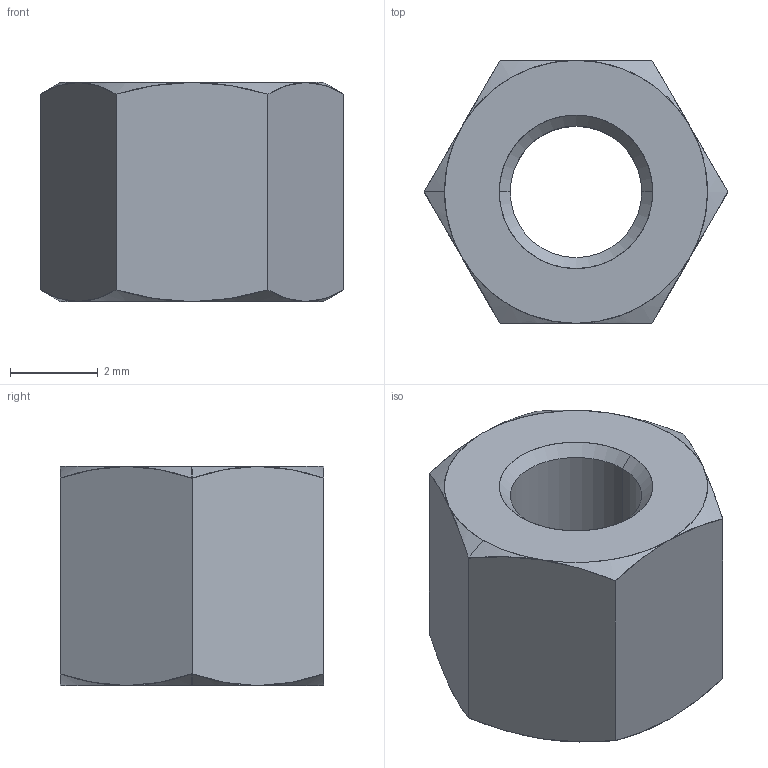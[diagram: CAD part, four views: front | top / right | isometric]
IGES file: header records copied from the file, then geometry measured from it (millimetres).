
Start section: SolidWorks IGES file using analytic representation for surfaces
Global section: file name: C:\Users\ianosborn\Desktop\N0503.NP_v2\N0503.NP_v2_20250227_IGES\N0503.030-005-NP.igs; native system: SolidWorks 2019; preprocessor: SolidWorks 2019; author: IanOsborn; date: 250227.144033; units: millimetre
Bounding box: 6.93 x 6 x 5 mm (x, y, z)
Surface area: 193.7 mm2 (no closed solid volume)
Topology: 0 solids, 0 shells, 28 faces, 286 edges, 286 vertices
Faces by surface type: revolution 20, bspline 8
